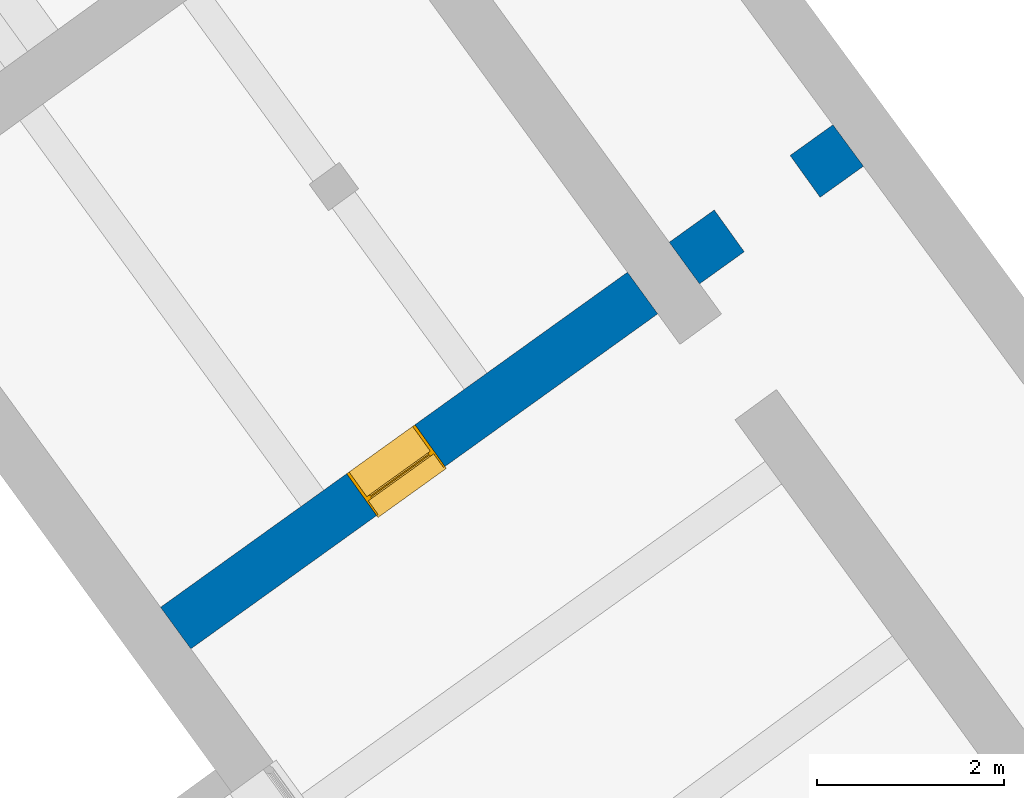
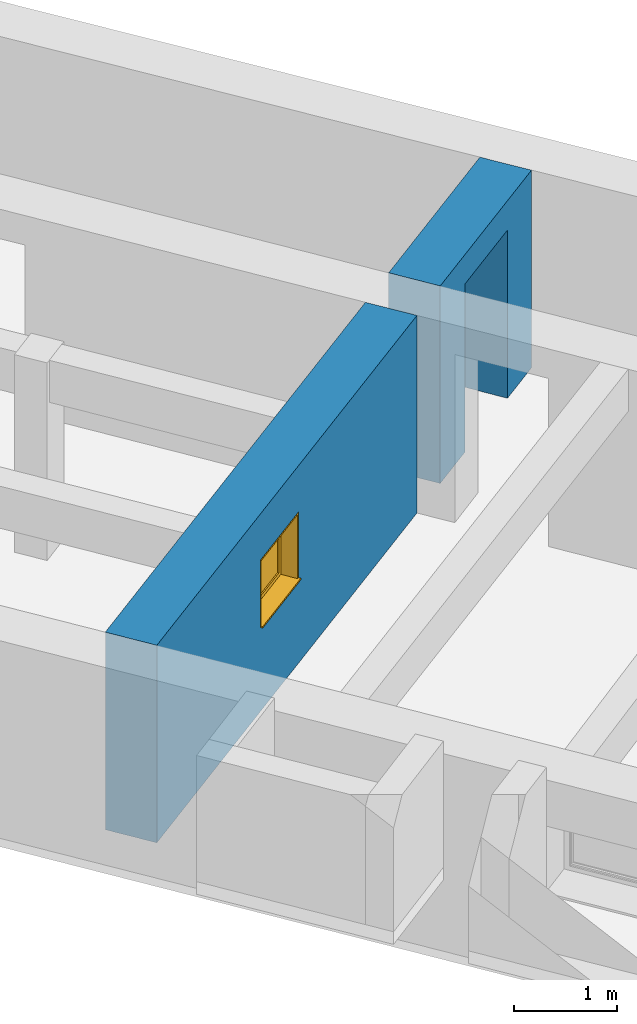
# One storey, part 101 of 112: 1 wall, 1 window, 1 opening.
"""IFC2X3 building model written with IfcOpenShell, lengths in millimetres."""

from ifc_helpers import new_model, entity, si_unit, converted_unit, derived_unit, direction, frame, frame_2d, origin, place, context, subcontext, project, spatial, polyline, rectangle, outline, extrude, faceted_brep, source, transform, mapped, material, material_list, layer, layer_set, type_object, type_shapes, element, fill, save


model = new_model("IFC2X3")

# Units and contexts
model_context = context("Model", 3, precision=0.01, world=origin(), true_north=direction((6.123031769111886e-17, 1.0)))
body_context = subcontext(model_context, "Body", "Model", "MODEL_VIEW")
ifc_project = project(units=[si_unit("LENGTHUNIT", "METRE", prefix="MILLI"), si_unit("AREAUNIT", "SQUARE_METRE"), si_unit("VOLUMEUNIT", "CUBIC_METRE"), converted_unit("PLANEANGLEUNIT", "DEGREE", entity("IfcRatioMeasure", 0.017453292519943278), si_unit("PLANEANGLEUNIT", "RADIAN"), dimensions=[0, 0, 0, 0, 0, 0, 0]), si_unit("MASSUNIT", "GRAM", prefix="KILO"), derived_unit("MASSDENSITYUNIT", [(si_unit("MASSUNIT", "GRAM", prefix="KILO"), 1), (si_unit("LENGTHUNIT", "METRE"), -3)]), derived_unit("MOMENTOFINERTIAUNIT", [(si_unit("LENGTHUNIT", "METRE"), 4)]), si_unit("TIMEUNIT", "SECOND"), si_unit("FREQUENCYUNIT", "HERTZ"), si_unit("THERMODYNAMICTEMPERATUREUNIT", "DEGREE_CELSIUS"), derived_unit("THERMALTRANSMITTANCEUNIT", [(si_unit("MASSUNIT", "GRAM", prefix="KILO"), 1), (si_unit("THERMODYNAMICTEMPERATUREUNIT", "KELVIN"), -1), (si_unit("TIMEUNIT", "SECOND"), -3)]), derived_unit("THERMALCONDUCTANCEUNIT", [(si_unit("MASSUNIT", "GRAM", prefix="KILO"), 1), (si_unit("LENGTHUNIT", "METRE"), 1), (si_unit("THERMODYNAMICTEMPERATUREUNIT", "KELVIN"), -1), (si_unit("TIMEUNIT", "SECOND"), -3)]), derived_unit("VOLUMETRICFLOWRATEUNIT", [(si_unit("LENGTHUNIT", "METRE"), 3), (si_unit("TIMEUNIT", "SECOND"), -1)]), derived_unit("MASSFLOWRATEUNIT", [(si_unit("MASSUNIT", "GRAM", prefix="KILO"), 1), (si_unit("TIMEUNIT", "SECOND"), -1)]), derived_unit("ROTATIONALFREQUENCYUNIT", [(si_unit("TIMEUNIT", "SECOND"), -1)]), si_unit("ELECTRICCURRENTUNIT", "AMPERE"), si_unit("ELECTRICVOLTAGEUNIT", "VOLT"), si_unit("POWERUNIT", "WATT"), converted_unit("FORCEUNIT", "KIP", entity("IfcRatioMeasure", 2.088543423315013e-05), si_unit("FORCEUNIT", "NEWTON"), dimensions=[1, 1, -2, 0, 0, 0, 0]), si_unit("ILLUMINANCEUNIT", "LUX"), si_unit("LUMINOUSFLUXUNIT", "LUMEN"), si_unit("LUMINOUSINTENSITYUNIT", "CANDELA"), derived_unit("USERDEFINED", [(si_unit("MASSUNIT", "GRAM", prefix="KILO"), -1), (si_unit("LENGTHUNIT", "METRE"), -2), (si_unit("TIMEUNIT", "SECOND"), 3), (si_unit("LUMINOUSFLUXUNIT", "LUMEN"), 1)]), derived_unit("USERDEFINED", [(si_unit("MASSUNIT", "GRAM", prefix="KILO"), 1), (si_unit("LENGTHUNIT", "METRE"), 3), (si_unit("TIMEUNIT", "SECOND"), -3), (si_unit("ELECTRICCURRENTUNIT", "AMPERE"), -2)]), derived_unit("USERDEFINED", [(si_unit("LENGTHUNIT", "METRE"), 2), (si_unit("TIMEUNIT", "SECOND"), -2)]), derived_unit("SOUNDPOWERUNIT", [(si_unit("MASSUNIT", "GRAM", prefix="KILO"), 1), (si_unit("LENGTHUNIT", "METRE"), 2), (si_unit("TIMEUNIT", "SECOND"), -3)]), derived_unit("SOUNDPRESSUREUNIT", [(si_unit("MASSUNIT", "GRAM", prefix="KILO"), 1), (si_unit("LENGTHUNIT", "METRE"), -1), (si_unit("TIMEUNIT", "SECOND"), -2)]), derived_unit("LINEARVELOCITYUNIT", [(si_unit("LENGTHUNIT", "METRE"), 1), (si_unit("TIMEUNIT", "SECOND"), -1)]), si_unit("PRESSUREUNIT", "PASCAL"), derived_unit("USERDEFINED", [(si_unit("LENGTHUNIT", "METRE"), -2), (si_unit("MASSUNIT", "GRAM", prefix="KILO"), 1), (si_unit("TIMEUNIT", "SECOND"), -2)]), derived_unit("LINEARFORCEUNIT", [(si_unit("MASSUNIT", "GRAM", prefix="KILO"), 1), (si_unit("LENGTHUNIT", "METRE"), 1), (si_unit("TIMEUNIT", "SECOND"), -2), (si_unit("LENGTHUNIT", "METRE"), -1)]), derived_unit("PLANARFORCEUNIT", [(si_unit("MASSUNIT", "GRAM", prefix="KILO"), 1), (si_unit("LENGTHUNIT", "METRE"), 1), (si_unit("TIMEUNIT", "SECOND"), -2), (si_unit("LENGTHUNIT", "METRE"), -2)]), derived_unit("SPECIFICHEATCAPACITYUNIT", [(si_unit("LENGTHUNIT", "METRE"), 2), (si_unit("TIMEUNIT", "SECOND"), -2), (si_unit("THERMODYNAMICTEMPERATUREUNIT", "KELVIN"), -1)]), derived_unit("VAPORPERMEABILITYUNIT", [(si_unit("TIMEUNIT", "SECOND"), 1), (si_unit("LENGTHUNIT", "METRE"), -1)]), derived_unit("DYNAMICVISCOSITYUNIT", [(si_unit("MASSUNIT", "GRAM", prefix="KILO"), 1), (si_unit("LENGTHUNIT", "METRE"), -1), (si_unit("TIMEUNIT", "SECOND"), -1)]), derived_unit("THERMALEXPANSIONCOEFFICIENTUNIT", [(si_unit("THERMODYNAMICTEMPERATUREUNIT", "KELVIN"), -1)])], contexts=[model_context])

# Site, building, storey
site_placement = place(None, frame((0.0, 0.0, 0.0), z_axis=(0.0, 0.0, 1.0), x_axis=(0.8191520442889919, 0.5735764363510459, 0.0)))
site = spatial("IfcSite", under=ifc_project, at=site_placement, Name="Default", CompositionType="ELEMENT")
building_placement = place(site_placement, origin())
building = spatial("IfcBuilding", under=site, at=building_placement, CompositionType="ELEMENT")
storey_placement = place(building_placement, frame((0.0, 0.0, -3600.0)))
storey = spatial("IfcBuildingStorey", under=building, at=storey_placement, Name="0.UG -3.60", CompositionType="ELEMENT", Elevation=-3600.0000000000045)

# Wall, opening, window
ifc_material_1 = material(Name="Analytical Wall Surface_CJC")
ifc_layer = layer(ifc_material_1, 550.0)
ifc_layer_set = layer_set([ifc_layer], Name="Basic Wall:Wand_Innen_55")
wall_type = type_object("IfcWallType", Name="Basic Wall:Wand_Innen_55", PredefinedType="STANDARD", material=ifc_layer_set)
wall_placement = place(storey_placement, frame((-182090.31082393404, 187799.36647624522, -50.0), z_axis=(0.0, 0.0, 1.0), x_axis=(-0.9999333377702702, -0.011546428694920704, 0.0)))
wall = element("IfcWall", 1, at=wall_placement, inside=storey, type_object=wall_type, Name="Basic Wall:Wand_Innen_55", ObjectType="Basic Wall:Wand_Innen_55", context=body_context, shape_type="Brep", body=[
    faceted_brep([(6.45247349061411, -275.0, 0.0), (570.4170865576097, -275.0, 0.0), (570.4170865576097, -275.0, 2000.0), (1570.4170865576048, -275.0, 2000.0), (1570.4170865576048, -275.0, 0.0), (2163.077564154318, -275.0, 0.0), (2163.0775641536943, -275.0, 2350.0), (6.45247349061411, -275.0, 2350.0), (2159.234700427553, 275.0, 0.0), (2159.2347004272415, 275.0, 2350.0), (0.0, 275.0, 2350.0), (0.0, 275.0, 0.0), (570.4170865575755, 275.0, 0.0), (570.4170865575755, 275.0, 2000.0), (1570.4170865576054, 275.0, 2000.0), (1570.4170865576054, 275.0, 0.0)], [[[0, 1, 2, 3, 4, 5, 6, 7]], [[6, 5, 8, 9]], [[0, 7, 10, 11]], [[1, 0, 11, 12]], [[10, 7, 6, 9]], [[2, 1, 12, 13]], [[3, 2, 13, 14]], [[4, 3, 14, 15]], [[4, 15, 8, 5]], [[12, 11, 10, 9, 8, 15, 14, 13]]]),
    faceted_brep([(8859.394559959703, 275.0, 2350.0), (8859.394559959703, 275.0, 0.0), (2709.2481253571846, 275.0, 0.0), (2709.248125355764, 275.0, 2350.0), (6411.835426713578, 275.0, 1000.0), (6411.835426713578, 275.0, 1800.0), (5511.835426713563, 275.0, 1800.0), (5511.835426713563, 275.0, 1000.0), (2713.090989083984, -275.0, 0.0), (2713.090989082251, -275.0, 2350.0), (8863.241441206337, -275.0, 2350.0), (8863.241441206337, -275.0, 0.0), (6411.835426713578, -275.0, 1000.0), (6411.835426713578, -275.0, 1800.0), (5511.835426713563, -275.0, 1000.0), (5511.835426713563, -275.0, 1800.0), (4563.136145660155, -275.0, 2350.0), (4863.143468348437, -275.0, 2350.0), (6713.188624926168, -275.0, 2350.0), (7013.195947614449, -275.0, 2350.0)], [[[0, 1, 2, 3], [4, 5, 6, 7]], [[8, 9, 3, 2]], [[10, 11, 1, 0]], [[12, 13, 5, 4]], [[14, 12, 4, 7]], [[15, 14, 7, 6]], [[13, 15, 6, 5]], [[1, 11, 8, 2]], [[10, 0, 3, 9, 16, 17, 18, 19]], [[11, 10, 19, 18, 17, 16, 9, 8], [13, 12, 14, 15]]]),
])
opening_placement = place(wall_placement, frame((5511.835426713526, -275.0, 1000.0)))
opening = element("IfcOpeningElement", 2, at=opening_placement, cuts=wall, Name="M_Instance-Window-Fixed:508x270 2:1", ObjectType="Opening", context=body_context, shape_type="SweptSolid", body=[
    extrude(rectangle(XDim=799.9999999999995, YDim=899.9999999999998, at=frame_2d((399.9999999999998, 449.9999999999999), x_axis=(-1.0, 0.0))), frame((0.0, 0.0, 0.0), z_axis=(0.0, 1.0, 0.0), x_axis=(0.0, 0.0, 1.0)), (0.0, 0.0, 1.0), 550.0),
])
ifc_material_2 = material(Name="Sash")
ifc_material_3 = material(Name="Glass")
ifc_material_4 = material(Name="<Unnamed>")
ifc_material_list = material_list([ifc_material_2, ifc_material_3, ifc_material_4])
window_style = type_object("IfcWindowStyle", Name="M_Instance-Window-Fixed:508x270 2", ConstructionType="NOTDEFINED", OperationType="NOTDEFINED", ParameterTakesPrecedence=False, Sizeable=False, material=ifc_material_list)
shared_shape = source(origin(), body_context, "Body", "SweptSolid", [
    extrude(rectangle(XDim=25.400000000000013, YDim=900.0000000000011, at=frame_2d((1.687538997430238e-14, 0.0), x_axis=(1.0, 0.0))), frame((450.0, 562.7, 0.0), z_axis=(0.0, 0.0, 1.0), x_axis=(0.0, -1.0, 0.0)), (0.0, 0.0, 1.0), 19.049999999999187),
    extrude(rectangle(XDim=12.699999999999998, YDim=772.9999999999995, at=frame_2d((4.440892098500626e-15, 0.0), x_axis=(1.0, 0.0))), frame((450.0, 347.77500000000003, 63.49999999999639), z_axis=(0.0, 0.0, 1.0), x_axis=(0.0, 1.0, 0.0)), (0.0, 0.0, 1.0), 673.0000000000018),
    extrude(outline(polyline([(-430.9499999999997, -380.95000000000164), (430.9499999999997, -380.95000000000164), (430.9499999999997, 380.95000000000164), (-430.9499999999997, 380.95000000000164), (-430.9499999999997, -380.95000000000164)]), holes=[polyline([(-386.4999999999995, -336.5000000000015), (-386.4999999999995, 336.5000000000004), (386.50000000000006, 336.5000000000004), (386.50000000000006, -336.5000000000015), (-386.4999999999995, -336.5000000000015)])]), frame((450.0, 325.55, 400.0), z_axis=(0.0, 1.0, 0.0), x_axis=(1.0, 0.0, 0.0)), (0.0, 0.0, 1.0), 44.449999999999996),
    extrude(outline(polyline([(-450.0, -400.0), (450.0, -400.0), (450.0, 400.0), (-450.0, 400.0), (-450.0, -400.0)]), holes=[polyline([(-418.25000000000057, -368.2499999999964), (-418.25000000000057, 368.2500000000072), (418.24999999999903, 368.2500000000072), (418.24999999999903, -368.2499999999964), (-418.25000000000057, -368.2499999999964)])]), frame((450.0, 0.0, 400.0), z_axis=(0.0, 1.0, 0.0), x_axis=(1.0, 0.0, 0.0)), (0.0, 0.0, 1.0), 325.55),
    extrude(outline(polyline([(-400.0, -450.0), (400.0, -450.0), (400.0, 450.0), (-400.0, 450.0), (-400.0, -450.0)]), holes=[polyline([(-380.9499999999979, -430.9499999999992), (-380.9499999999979, 430.95000000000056), (380.95000000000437, 430.95000000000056), (380.95000000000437, -430.9499999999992), (-380.9499999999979, -430.9499999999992)])]), frame((450.0, 325.55, 400.0), z_axis=(0.0, 1.0, 0.0), x_axis=(0.0, 0.0, -1.0)), (0.0, 0.0, 1.0), 224.45000000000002),
])
type_shapes(window_style, [shared_shape])
window_placement = place(opening_placement, origin())
window = element("IfcWindow", 3, at=window_placement, inside=storey, type_object=window_style, material=ifc_material_list, Name="M_Instance-Window-Fixed:508x270 2", ObjectType="M_Instance-Window-Fixed:508x270 2", OverallHeight=799.9999999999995, OverallWidth=899.9999999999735, context=body_context, shape_type="MappedRepresentation", body=[
    mapped(shared_shape, transform((0.0, 0.0, 0.0), scale=1.0)),
])
fill(opening, window)

save(model, "model.ifc")
